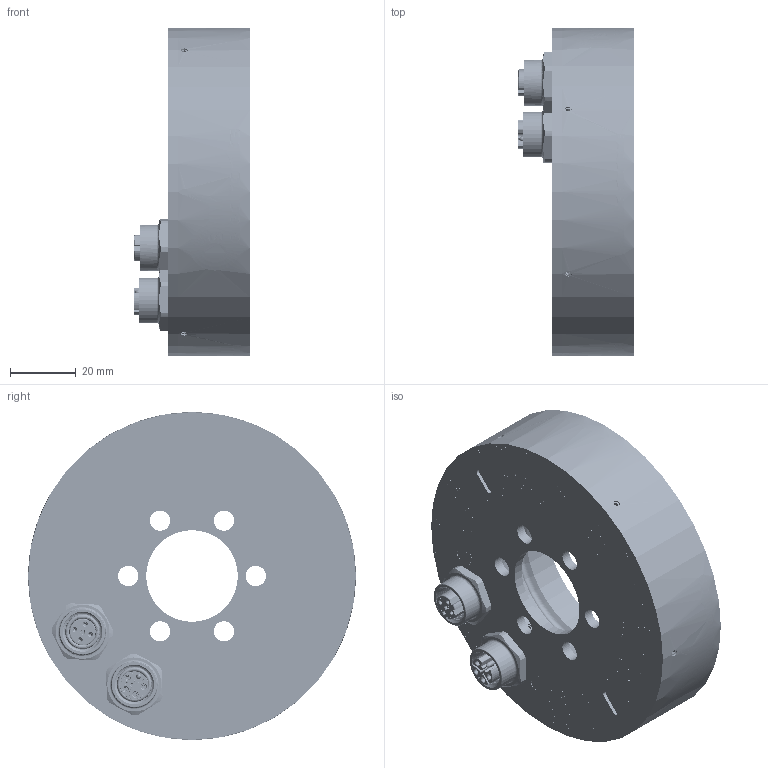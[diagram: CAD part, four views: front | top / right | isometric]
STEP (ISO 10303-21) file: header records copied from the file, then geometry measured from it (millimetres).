
FILE_DESCRIPTION (( 'STEP AP203' ), '1' );
FILE_NAME ('K0E012323_IC-REMOTE F100_50_zum_Versenden.STEP', '2023-12-22T09:10:20', ( '' ), ( '' ), 'SwSTEP 2.0', 'SolidWorks 2023', '' );
FILE_SCHEMA (( 'CONFIG_CONTROL_DESIGN' ));
Length unit declared in the file: millimetre
Products named in the file (1): K0E012323_IC-REMOTE F100_50_zum_Versenden
Bounding box: 35.34 x 100 x 100 mm (x, y, z)
Surface area: 66371.4 mm2 (no closed solid volume)
Topology: 0 solids, 54 shells, 6387 faces, 18119 edges, 12396 vertices
Faces by surface type: plane 3479, bspline 2119, cylinder 520, cone 179, torus 90
Entity records: 321950 total; most frequent: CARTESIAN_POINT 170514, ORIENTED_EDGE 35528, DIRECTION 22937, EDGE_CURVE 18107, VERTEX_POINT 12396, VECTOR 11575, LINE 11575, EDGE_LOOP 7136
